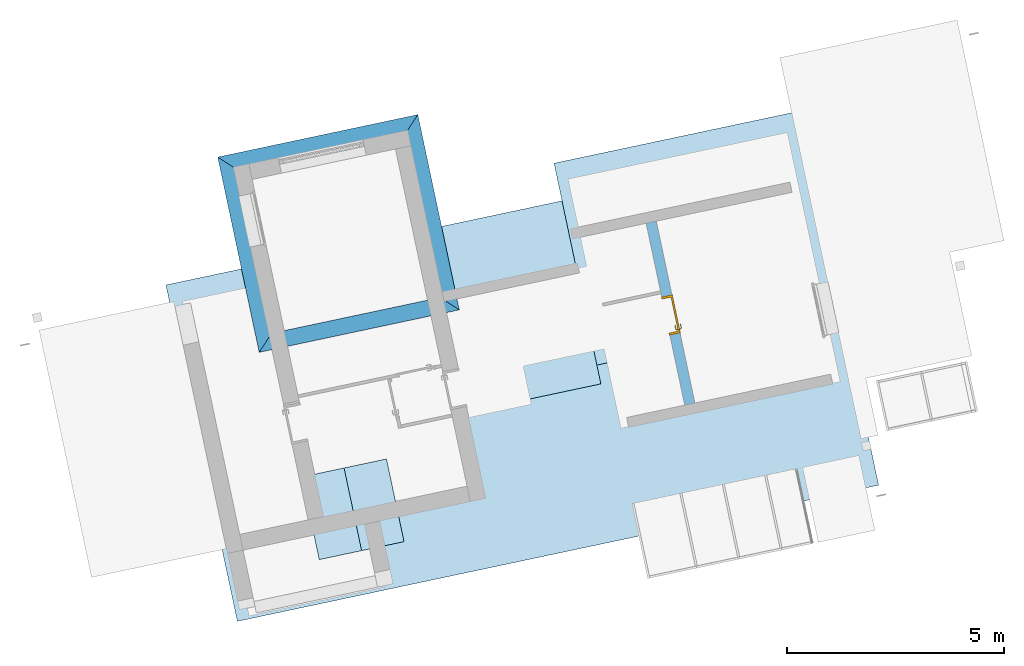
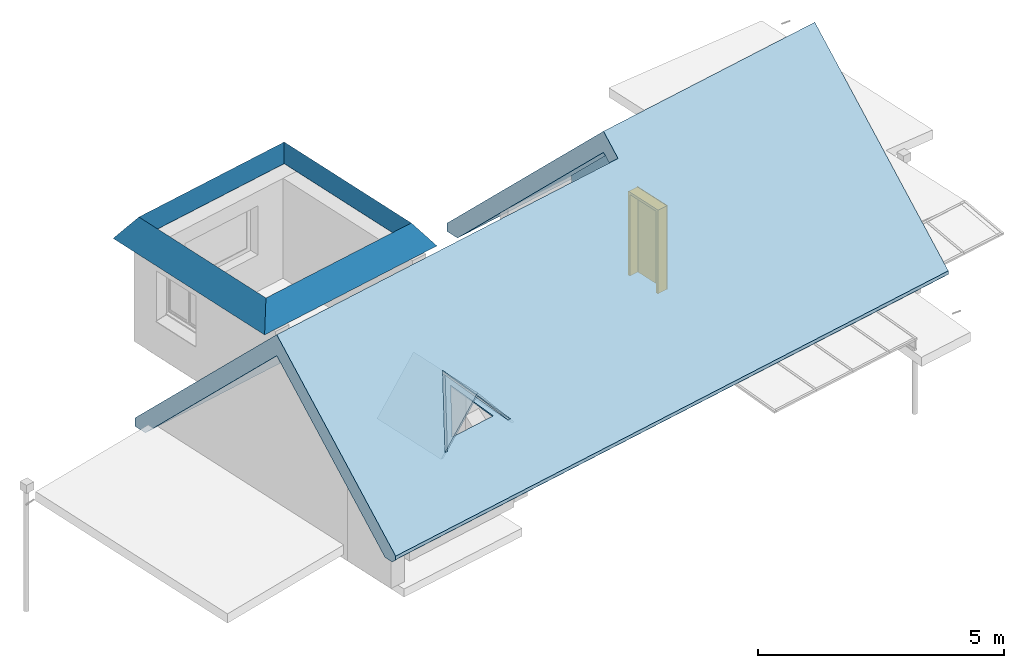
# One storey, part 8 of 10: 3 roofs, 1 door, 1 opening, plus 1 element that does not belong to this part.
"""IFC2X3 building model written with IfcOpenShell, lengths in centimetres."""

from ifc_helpers import new_model, entity, si_unit, converted_unit, derived_unit, direction, frame, frame_2d, origin, place, context, subcontext, project, spatial, polyline, rectangle, extrude, clip, bounded_halfspace, faceted_brep, source, transform, mapped, material, layer, layer_set, layer_usage, type_object, type_shapes, element, fill, save


model = new_model("IFC2X3")

# Units and contexts
model_context = context("Model", 3, precision=0.001, world=origin(), true_north=direction((6.12303176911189e-17, 1.0)))
body_context = subcontext(model_context, "Body", "Model", "MODEL_VIEW")
ifc_project = project(units=[si_unit("LENGTHUNIT", "METRE", prefix="CENTI"), si_unit("AREAUNIT", "SQUARE_METRE"), si_unit("VOLUMEUNIT", "CUBIC_METRE"), converted_unit("PLANEANGLEUNIT", "DEGREE", entity("IfcRatioMeasure", 0.0174532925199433), si_unit("PLANEANGLEUNIT", "RADIAN"), dimensions=[0, 0, 0, 0, 0, 0, 0]), si_unit("MASSUNIT", "GRAM", prefix="KILO"), derived_unit("MASSDENSITYUNIT", [(si_unit("MASSUNIT", "GRAM", prefix="KILO"), 1), (si_unit("LENGTHUNIT", "METRE"), -3)]), derived_unit("IONCONCENTRATIONUNIT", [(si_unit("MASSUNIT", "GRAM", prefix="KILO"), 1), (si_unit("LENGTHUNIT", "METRE"), -3)]), derived_unit("MOMENTOFINERTIAUNIT", [(si_unit("LENGTHUNIT", "METRE"), 4)]), si_unit("TIMEUNIT", "SECOND"), si_unit("FREQUENCYUNIT", "HERTZ"), si_unit("THERMODYNAMICTEMPERATUREUNIT", "DEGREE_CELSIUS"), derived_unit("THERMALTRANSMITTANCEUNIT", [(si_unit("MASSUNIT", "GRAM", prefix="KILO"), 1), (si_unit("THERMODYNAMICTEMPERATUREUNIT", "KELVIN"), -1), (si_unit("TIMEUNIT", "SECOND"), -3)]), derived_unit("THERMALCONDUCTANCEUNIT", [(si_unit("MASSUNIT", "GRAM", prefix="KILO"), 1), (si_unit("THERMODYNAMICTEMPERATUREUNIT", "KELVIN"), -1), (si_unit("TIMEUNIT", "SECOND"), -3), (si_unit("LENGTHUNIT", "METRE"), 1)]), derived_unit("VOLUMETRICFLOWRATEUNIT", [(si_unit("LENGTHUNIT", "METRE"), 3), (si_unit("TIMEUNIT", "SECOND"), -1)]), derived_unit("MASSFLOWRATEUNIT", [(si_unit("MASSUNIT", "GRAM", prefix="KILO"), 1), (si_unit("TIMEUNIT", "SECOND"), -1)]), derived_unit("ROTATIONALFREQUENCYUNIT", [(si_unit("TIMEUNIT", "SECOND"), -1)]), si_unit("ELECTRICCURRENTUNIT", "AMPERE"), si_unit("ELECTRICVOLTAGEUNIT", "VOLT"), si_unit("POWERUNIT", "WATT"), si_unit("FORCEUNIT", "NEWTON", prefix="KILO"), si_unit("ILLUMINANCEUNIT", "LUX"), si_unit("LUMINOUSFLUXUNIT", "LUMEN"), si_unit("LUMINOUSINTENSITYUNIT", "CANDELA"), derived_unit("USERDEFINED", [(si_unit("MASSUNIT", "GRAM", prefix="KILO"), -1), (si_unit("LENGTHUNIT", "METRE"), -2), (si_unit("TIMEUNIT", "SECOND"), 3), (si_unit("LUMINOUSFLUXUNIT", "LUMEN"), 1)]), derived_unit("USERDEFINED", [(si_unit("MASSUNIT", "GRAM", prefix="KILO"), 1), (si_unit("TIMEUNIT", "SECOND"), -3), (si_unit("LENGTHUNIT", "METRE"), 3), (si_unit("ELECTRICCURRENTUNIT", "AMPERE"), -2)]), derived_unit("SOUNDPOWERUNIT", [(si_unit("MASSUNIT", "GRAM", prefix="KILO"), 1), (si_unit("TIMEUNIT", "SECOND"), -3), (si_unit("LENGTHUNIT", "METRE"), 2)]), derived_unit("SOUNDPRESSUREUNIT", [(si_unit("MASSUNIT", "GRAM", prefix="KILO"), 1), (si_unit("LENGTHUNIT", "METRE"), -1), (si_unit("TIMEUNIT", "SECOND"), -2)]), derived_unit("LINEARVELOCITYUNIT", [(si_unit("LENGTHUNIT", "METRE"), 1), (si_unit("TIMEUNIT", "SECOND"), -1)]), si_unit("PRESSUREUNIT", "PASCAL"), derived_unit("USERDEFINED", [(si_unit("MASSUNIT", "GRAM", prefix="KILO"), 1), (si_unit("LENGTHUNIT", "METRE"), -2), (si_unit("TIMEUNIT", "SECOND"), -2)]), derived_unit("LINEARFORCEUNIT", [(si_unit("MASSUNIT", "GRAM", prefix="KILO"), 1), (si_unit("TIMEUNIT", "SECOND"), -2)]), derived_unit("PLANARFORCEUNIT", [(si_unit("MASSUNIT", "GRAM", prefix="KILO"), 1), (si_unit("LENGTHUNIT", "METRE"), -1), (si_unit("TIMEUNIT", "SECOND"), -2)]), derived_unit("SPECIFICHEATCAPACITYUNIT", [(si_unit("THERMODYNAMICTEMPERATUREUNIT", "KELVIN"), -1), (si_unit("LENGTHUNIT", "METRE"), 2), (si_unit("TIMEUNIT", "SECOND"), -2)]), derived_unit("HEATINGVALUEUNIT", [(si_unit("LENGTHUNIT", "METRE"), 2), (si_unit("TIMEUNIT", "SECOND"), -2)]), derived_unit("VAPORPERMEABILITYUNIT", [(si_unit("LENGTHUNIT", "METRE"), -1), (si_unit("TIMEUNIT", "SECOND"), 1)]), derived_unit("DYNAMICVISCOSITYUNIT", [(si_unit("MASSUNIT", "GRAM", prefix="KILO"), 1), (si_unit("TIMEUNIT", "SECOND"), -1), (si_unit("LENGTHUNIT", "METRE"), -1)]), derived_unit("THERMALEXPANSIONCOEFFICIENTUNIT", [(si_unit("THERMODYNAMICTEMPERATUREUNIT", "KELVIN"), -1)]), derived_unit("MODULUSOFELASTICITYUNIT", [(si_unit("MASSUNIT", "GRAM", prefix="KILO"), 1), (si_unit("LENGTHUNIT", "METRE"), -1), (si_unit("TIMEUNIT", "SECOND"), -2)]), derived_unit("ISOTHERMALMOISTURECAPACITYUNIT", [(si_unit("LENGTHUNIT", "METRE"), 3), (si_unit("MASSUNIT", "GRAM", prefix="KILO"), -1)]), derived_unit("MOISTUREDIFFUSIVITYUNIT", [(si_unit("TIMEUNIT", "SECOND"), -1), (si_unit("LENGTHUNIT", "METRE"), 2)])], contexts=[model_context])

# Site, building, storey
site_placement = place(None, frame((14083.8920177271, -6853.25409548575, 6900.0), z_axis=(0.0, 0.0, 1.0), x_axis=(0.978188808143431, 0.207717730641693, 0.0)))
site = spatial("IfcSite", under=ifc_project, at=site_placement, Name="Surface", CompositionType="ELEMENT")
building_placement = place(site_placement, origin())
building = spatial("IfcBuilding", under=site, at=building_placement, CompositionType="ELEMENT")
storey_placement = place(building_placement, frame((0.0, 0.0, 289.0)))
storey = spatial("IfcBuildingStorey", under=building, at=storey_placement, Name="_R+1", CompositionType="ELEMENT", Elevation=289.0)

# Wall, opening, door
ifc_material_1 = material(Name="__ ENDUIT_Blanc")
ifc_layer_1 = layer(ifc_material_1, 2.0)
ifc_material_2 = material(Name="Béton, précoulé")
ifc_layer_2 = layer(ifc_material_2, 20.0)
ifc_layer_3 = layer(ifc_material_1, 2.0)
ifc_layer_set_1 = layer_set([ifc_layer_1, ifc_layer_2, ifc_layer_3], Name="Mur de base:*BRIQUE 24 (20 + INT 2 + EXT 2) (enduit 2 faces)")
ifc_layer_usage = layer_usage(ifc_layer_set_1, "AXIS2", "NEGATIVE", 12.0)
wall_type = type_object("IfcWallType", Name="Mur de base:*BRIQUE 24 (20 + INT 2 + EXT 2) (enduit 2 faces)", PredefinedType="STANDARD", material=ifc_layer_set_1)
wall_placement = place(storey_placement, frame((-6621.9551432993, 15389.9391445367, 0.0), z_axis=(0.0, 0.0, 1.0), x_axis=(0.0, -1.0, 0.0)))
wall = element("IfcWallStandardCase", 1, at=wall_placement, inside=storey, type_object=wall_type, material=ifc_layer_usage, Name="Mur de base:*BRIQUE 24 (20 + INT 2 + EXT 2) (enduit 2 faces)", ObjectType="Mur de base:*BRIQUE 24 (20 + INT 2 + EXT 2) (enduit 2 faces)", context=body_context, shape_type="Clipping", body=[
    clip(clip(extrude(rectangle(XDim=23.9999999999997, YDim=428.766666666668, at=frame_2d((214.383333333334, -3.37507799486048e-14), x_axis=(0.0, 1.0))), origin(), (0.0, 0.0, 1.0), 451.979987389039), bounded_halfspace(frame((428.766666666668, -12.0, 316.5), z_axis=(0.707106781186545, 0.0, 0.70710678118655), x_axis=(0.0, 1.0, 0.0)), False, frame((428.766666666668, -12.0, 316.5)), polyline([(0.0, 0.0), (0.0, 24.0), (-135.479987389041, 24.0), (-135.479987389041, 0.0), (0.0, 0.0)]))), bounded_halfspace(frame((0.0, 12.0, 158.693308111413), z_axis=(-0.707106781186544, 0.0, 0.707106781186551), x_axis=(0.0, -1.0, 0.0)), False, frame((0.0, 12.0, 158.693308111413)), polyline([(0.0, 0.0), (0.0, -24.0), (293.286679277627, -24.0), (293.286679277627, 0.0), (0.0, 0.0)]))),
])
opening_placement = place(wall_placement, frame((173.633333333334, -12.0, 0.0)))
opening = element("IfcOpeningElement", 2, at=opening_placement, cuts=wall, Name="*Porte_alveolaire:Pp 83 x 204:1", ObjectType="Opening", context=body_context, shape_type="SweptSolid", body=[
    extrude(rectangle(XDim=207.5, YDim=89.9999999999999, at=frame_2d((103.75, 45.0), x_axis=(1.0, 0.0))), frame((0.0, 0.0, 0.0), z_axis=(0.0, 1.0, 0.0), x_axis=(0.0, 0.0, 1.0)), (0.0, 0.0, 1.0), 24.0),
])
ifc_material_3 = material(Name="<Unnamed>")
door_style = type_object("IfcDoorStyle", Name="*Porte_alveolaire:Pp 83 x 204", ConstructionType="NOTDEFINED", OperationType="NOTDEFINED", ParameterTakesPrecedence=False, Sizeable=False, material=ifc_material_3)
shared_shape = source(origin(), body_context, "Body", "Brep", [
    faceted_brep([(8.7974701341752, 3.69999999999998, 89.2219559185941), (9.20252986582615, 3.69999999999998, 89.221955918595), (9.60000000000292, 3.69999999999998, 89.3000000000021), (9.60000000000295, 3.69999999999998, 90.699999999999), (9.20252986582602, 3.69999999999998, 90.7780440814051), (8.79747013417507, 3.69999999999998, 90.7780440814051), (8.39999999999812, 3.69999999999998, 90.699999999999), (8.39999999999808, 3.69999999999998, 89.2999999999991), (9.60000000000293, 5.94852045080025, 89.3000000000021), (9.60000000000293, 5.94852045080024, 90.699999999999), (9.20252986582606, 6.11315797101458, 90.7780440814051), (10.5838906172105, 7.49451872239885, 90.7780440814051), (10.4161093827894, 7.89957845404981, 90.7780440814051), (8.7974701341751, 6.28093920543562, 90.7780440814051), (19.5684749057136, 6.84673156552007, 90.7780440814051), (19.8548953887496, 7.1331520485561, 90.7780440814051), (19.0884689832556, 7.8995784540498, 90.7780440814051), (18.9206877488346, 7.49451872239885, 90.7780440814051), (8.39999999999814, 6.44557672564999, 90.699999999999), (8.39999999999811, 6.44557672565, 89.2999999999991), (8.7974701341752, 6.28093920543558, 89.2219559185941), (10.4161093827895, 7.89957845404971, 89.2219559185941), (10.5838906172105, 7.49451872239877, 89.221955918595), (9.20252986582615, 6.11315797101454, 89.221955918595), (19.8548953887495, 7.133152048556, 89.221955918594), (19.5684749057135, 6.84673156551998, 89.221955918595), (18.9206877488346, 7.49451872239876, 89.221955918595), (19.0884689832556, 7.89957845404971, 89.221955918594), (10.7485281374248, 7.09704858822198, 89.3000000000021), (10.7485281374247, 7.09704858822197, 90.699999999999), (10.2514718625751, 8.29704858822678, 90.699999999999), (10.2514718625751, 8.2970485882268, 89.2999999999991), (14.7522879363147, 7.09704858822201, 89.300000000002), (18.7560502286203, 7.09704858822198, 89.300000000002), (18.7560502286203, 7.09704858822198, 90.699999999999), (14.7522891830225, 7.09704858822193, 90.699999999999), (14.7522891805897, 7.71249275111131, 90.7878116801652), (19.25310650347, 8.29704858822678, 90.699999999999), (15.2600577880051, 8.29704858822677, 90.699999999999), (19.25310650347, 8.2970485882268, 89.2999999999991), (14.2445205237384, 8.29704858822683, 89.2999999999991), (14.7522892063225, 7.71249274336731, 89.2121883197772), (19.287421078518, 6.56567773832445, 89.300000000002), (20.1359492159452, 7.41420587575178, 89.2999999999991), (20.1359492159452, 7.41420587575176, 90.699999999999), (19.287421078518, 6.56567773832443, 90.699999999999)], [[[0, 1, 2, 3, 4, 5, 6, 7]], [[3, 2, 8, 9]], [[9, 10, 4, 3]], [[10, 11, 12, 13, 5, 4]], [[14, 15, 16, 17]], [[13, 18, 6, 5]], [[7, 6, 18, 19]], [[19, 20, 0, 7]], [[20, 21, 22, 23, 1, 0]], [[24, 25, 26, 27]], [[23, 8, 2, 1]], [[9, 8, 28, 29]], [[29, 11, 10, 9]], [[12, 30, 18, 13]], [[19, 18, 30, 31]], [[31, 21, 20, 19]], [[22, 28, 8, 23]], [[28, 32, 33, 34, 35, 29]], [[11, 35, 36]], [[16, 37, 38]], [[30, 12, 38]], [[38, 12, 36]], [[36, 35, 17]], [[17, 16, 36]], [[35, 11, 29]], [[34, 17, 35]], [[11, 36, 12]], [[38, 36, 16]], [[31, 30, 38, 37, 39, 40]], [[40, 41, 21]], [[41, 40, 27]], [[21, 31, 40]], [[39, 27, 40]], [[41, 32, 22]], [[22, 21, 41]], [[26, 32, 41]], [[28, 22, 32]], [[32, 26, 33]], [[26, 41, 27]], [[42, 25, 24, 43, 44, 15, 14, 45]], [[34, 33, 42, 45]], [[45, 14, 17, 34]], [[15, 44, 37, 16]], [[39, 37, 44, 43]], [[43, 24, 27, 39]], [[25, 42, 33, 26]]]),
    faceted_brep([(8.79747013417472, -1.30000000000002, 90.7780440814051), (9.20252986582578, -1.30000000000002, 90.7780440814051), (9.60000000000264, -1.30000000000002, 90.6999999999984), (9.60000000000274, -1.30000000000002, 89.3000000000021), (9.20252986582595, -1.30000000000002, 89.221955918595), (8.79747013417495, -1.30000000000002, 89.221955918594), (8.39999999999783, -1.30000000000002, 89.2999999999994), (8.39999999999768, -1.30000000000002, 90.699999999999), (8.39999999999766, -4.06509507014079, 90.6999999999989), (8.79747013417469, -3.9004575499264, 90.7780440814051), (10.402358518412, -5.50534593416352, 90.7780440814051), (10.570139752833, -5.10028620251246, 90.7780440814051), (9.20252986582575, -3.73267631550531, 90.7780440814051), (19.852181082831, -4.73891952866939, 90.778044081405), (19.5657605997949, -4.45249904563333, 90.778044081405), (18.9179734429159, -5.10028620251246, 90.778044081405), (19.085754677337, -5.50534593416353, 90.778044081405), (9.60000000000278, -3.56803879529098, 90.699999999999), (9.60000000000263, -3.56803879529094, 89.3000000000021), (9.20252986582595, -3.73267631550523, 89.221955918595), (10.5701397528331, -5.10028620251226, 89.221955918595), (10.4023585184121, -5.50534593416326, 89.221955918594), (8.79747013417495, -3.90045754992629, 89.221955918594), (19.5657605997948, -4.45249904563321, 89.221955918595), (19.8521810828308, -4.73891952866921, 89.221955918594), (19.0857546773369, -5.50534593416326, 89.221955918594), (18.9179734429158, -5.10028620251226, 89.221955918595), (8.39999999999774, -4.06509507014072, 89.2999999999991), (10.2377209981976, -5.90281606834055, 90.6999999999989), (10.7347772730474, -4.70281606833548, 90.699999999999), (10.7347772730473, -4.70281606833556, 89.3000000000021), (10.2377209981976, -5.90281606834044, 89.2999999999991), (14.2307697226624, -5.90281606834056, 90.6999999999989), (14.7440566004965, -5.31828027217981, 90.7878115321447), (19.2503921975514, -5.90281606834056, 90.6999999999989), (14.7440565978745, -4.70281606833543, 90.699999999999), (18.7533359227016, -4.70281606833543, 90.6999999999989), (18.7533359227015, -4.70281606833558, 89.300000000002), (14.7440563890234, -4.70281606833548, 89.3000000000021), (14.7440565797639, -5.31828027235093, 89.2121884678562), (19.2503921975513, -5.90281606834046, 89.2999999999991), (15.2573436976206, -5.90281606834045, 89.2999999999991), (19.2847067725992, -4.17144521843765, 90.6999999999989), (20.1332349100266, -5.01997335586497, 90.6999999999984), (20.1332349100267, -5.019973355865, 89.2999999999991), (19.2847067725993, -4.17144521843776, 89.3000000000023)], [[[0, 1, 2, 3, 4, 5, 6, 7]], [[8, 9, 0, 7]], [[9, 10, 11, 12, 1, 0]], [[13, 14, 15, 16]], [[12, 17, 2, 1]], [[3, 2, 17, 18]], [[18, 19, 4, 3]], [[19, 20, 21, 22, 5, 4]], [[23, 24, 25, 26]], [[22, 27, 6, 5]], [[7, 6, 27, 8]], [[28, 10, 9, 8]], [[11, 29, 17, 12]], [[18, 17, 29, 30]], [[30, 20, 19, 18]], [[21, 31, 27, 22]], [[8, 27, 31, 28]], [[32, 33, 10]], [[33, 32, 16]], [[10, 28, 32]], [[34, 16, 32]], [[33, 35, 11]], [[11, 10, 33]], [[15, 35, 33]], [[29, 11, 35]], [[35, 15, 36]], [[15, 33, 16]], [[30, 29, 35, 36, 37, 38]], [[20, 38, 39]], [[25, 40, 41]], [[31, 21, 41]], [[41, 21, 39]], [[39, 38, 26]], [[26, 25, 39]], [[38, 20, 30]], [[37, 26, 38]], [[20, 39, 21]], [[41, 39, 25]], [[28, 31, 41, 40, 34, 32]], [[42, 14, 13, 43, 44, 24, 23, 45]], [[43, 13, 16, 34]], [[14, 42, 36, 15]], [[37, 36, 42, 45]], [[45, 23, 26, 37]], [[24, 44, 40, 25]], [[34, 40, 44, 43]]]),
    faceted_brep([(10.03527618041, 3.19999999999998, 76.6003983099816), (11.0, 3.19999999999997, 77.0), (11.0, 3.19999999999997, 98.0), (10.03527618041, 3.19999999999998, 98.3996016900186), (9.0, 3.19999999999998, 98.5358983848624), (7.96472381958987, 3.19999999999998, 98.3996016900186), (7.0, 3.19999999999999, 98.0), (7.0, 3.19999999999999, 77.0), (7.96472381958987, 3.19999999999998, 76.6003983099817), (9.0, 3.19999999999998, 76.4641016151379), (10.03527618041, 3.69999999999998, 98.3996016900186), (11.0, 3.69999999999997, 98.0), (11.0, 3.69999999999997, 77.0), (10.03527618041, 3.69999999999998, 76.6003983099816), (9.0, 3.69999999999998, 76.4641016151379), (7.96472381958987, 3.69999999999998, 76.6003983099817), (7.0, 3.69999999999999, 77.0), (7.0, 3.69999999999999, 98.0), (7.96472381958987, 3.69999999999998, 98.3996016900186), (9.0, 3.69999999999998, 98.5358983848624)], [[[0, 1, 2, 3, 4, 5, 6, 7, 8, 9]], [[10, 11, 12, 13, 14, 15, 16, 17, 18, 19]], [[11, 10, 3, 2]], [[3, 10, 19, 4]], [[19, 18, 5, 4]], [[18, 17, 6, 5]], [[7, 6, 17, 16]], [[16, 15, 8, 7]], [[8, 15, 14, 9]], [[14, 13, 0, 9]], [[13, 12, 1, 0]], [[2, 1, 12, 11]]]),
    faceted_brep([(10.03527618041, -1.30000000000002, 76.6003983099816), (11.0, -1.30000000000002, 77.0), (11.0, -1.30000000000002, 98.0), (10.03527618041, -1.30000000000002, 98.3996016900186), (9.0, -1.30000000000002, 98.5358983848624), (7.96472381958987, -1.30000000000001, 98.3996016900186), (7.0, -1.30000000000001, 98.0), (7.0, -1.30000000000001, 77.0), (7.96472381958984, -1.30000000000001, 76.6003983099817), (9.0, -1.30000000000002, 76.4641016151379), (10.03527618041, -0.800000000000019, 98.3996016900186), (11.0, -0.800000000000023, 98.0), (11.0, -0.800000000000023, 77.0), (10.03527618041, -0.800000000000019, 76.6003983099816), (9.0, -0.800000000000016, 76.4641016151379), (7.96472381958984, -0.800000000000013, 76.6003983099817), (7.0, -0.800000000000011, 77.0), (7.0, -0.800000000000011, 98.0), (7.96472381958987, -0.800000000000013, 98.3996016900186), (9.0, -0.800000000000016, 98.5358983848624)], [[[0, 1, 2, 3, 4, 5, 6, 7, 8, 9]], [[10, 11, 12, 13, 14, 15, 16, 17, 18, 19]], [[16, 15, 8, 7]], [[8, 15, 14, 9]], [[14, 13, 0, 9]], [[13, 12, 1, 0]], [[2, 1, 12, 11]], [[11, 10, 3, 2]], [[3, 10, 19, 4]], [[19, 18, 5, 4]], [[18, 17, 6, 5]], [[7, 6, 17, 16]]]),
    faceted_brep([(0.0, 0.0, 0.0), (0.0, 24.0, 0.0), (-1.0, 24.0, 0.0), (-1.0, 24.8000000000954, 0.0), (5.0, 24.8000000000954, 0.0), (5.0, 3.2, 0.0), (3.49999999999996, 3.2, 0.0), (3.49999999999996, -0.800000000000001, 0.0), (-1.0, -0.800000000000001, 0.0), (-1.0, 0.0, 0.0), (0.0, 0.0, 207.5), (0.0, 24.0, 207.5), (90.0, 24.0, 207.5), (90.0, 24.0, 0.0), (91.0, 24.0, 0.0), (91.0, 24.0, 208.5), (-1.0, 24.0, 208.5), (-1.0, 24.8000000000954, 208.5), (91.0, 24.8000000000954, 208.5), (91.0, 24.8000000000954, 0.0), (85.0, 24.8000000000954, 0.0), (85.0, 24.8000000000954, 202.500000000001), (5.0, 24.8000000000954, 202.500000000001), (5.0, 3.2, 202.500000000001), (85.0, 3.2, 202.500000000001), (85.0, 3.2, 0.0), (86.5, 3.2, 0.0), (86.5, 3.2, 204.0), (3.49999999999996, 3.2, 204.0), (3.49999999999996, -0.800000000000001, 204.0), (86.5, -0.800000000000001, 204.0), (86.5, -0.800000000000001, 0.0), (91.0, -0.800000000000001, 0.0), (91.0, -0.800000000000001, 208.5), (-1.0, -0.800000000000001, 208.5), (-1.0, 0.0, 208.5), (91.0, 0.0, 208.5), (91.0, 0.0, 0.0), (90.0, 0.0, 0.0), (90.0, 0.0, 207.5)], [[[0, 1, 2, 3, 4, 5, 6, 7, 8, 9]], [[1, 0, 10, 11]], [[2, 1, 11, 12, 13, 14, 15, 16]], [[3, 2, 16, 17]], [[4, 3, 17, 18, 19, 20, 21, 22]], [[5, 4, 22, 23]], [[6, 5, 23, 24, 25, 26, 27, 28]], [[7, 6, 28, 29]], [[8, 7, 29, 30, 31, 32, 33, 34]], [[9, 8, 34, 35]], [[0, 9, 35, 36, 37, 38, 39, 10]], [[12, 39, 38, 13]], [[38, 37, 32, 31, 26, 25, 20, 19, 14, 13]], [[18, 15, 14, 19]], [[24, 21, 20, 25]], [[30, 27, 26, 31]], [[36, 33, 32, 37]], [[11, 10, 39, 12]], [[17, 16, 15, 18]], [[23, 22, 21, 24]], [[29, 28, 27, 30]], [[35, 34, 33, 36]]]),
    faceted_brep([(3.49999999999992, -0.799999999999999, 204.0), (3.49999999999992, -0.799999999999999, 0.0), (86.5, -0.799999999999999, 0.0), (86.5, -0.799999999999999, 204.0), (3.49999999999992, 3.2, 204.0), (86.5, 3.2, 204.0), (86.5, 3.2, 0.0), (3.49999999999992, 3.2, 0.0)], [[[0, 1, 2, 3]], [[4, 5, 6, 7]], [[1, 0, 4, 7]], [[2, 1, 7, 6]], [[3, 2, 6, 5]], [[0, 3, 5, 4]]]),
])
type_shapes(door_style, [shared_shape])
door_placement = place(opening_placement, frame((90.0, 24.0, 0.0), z_axis=(0.0, 0.0, 1.0), x_axis=(-1.0, 0.0, 0.0)))
door = element("IfcDoor", 3, at=door_placement, inside=storey, type_object=door_style, material=ifc_material_3, Name="*Porte_alveolaire:Pp 83 x 204", ObjectType="*Porte_alveolaire:Pp 83 x 204", OverallHeight=207.5, OverallWidth=90.0000000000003, context=body_context, shape_type="MappedRepresentation", body=[
    mapped(shared_shape, transform((0.0, 0.0, 0.0), scale=1.0)),
])
fill(opening, door)

# Roofs
ifc_material_4 = material(Name="__ TOIT_ardoises______________________TEST")
ifc_layer_4 = layer(ifc_material_4, 5.0)
ifc_layer_set_2 = layer_set([ifc_layer_4], Name="Toit de base:Ardoise 5")
roof_1_placement = place(storey_placement, frame((-7532.64448995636, 14787.6724778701, 185.778619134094)))
element("IfcRoof", 4, at=roof_1_placement, inside=storey, material=ifc_layer_set_2, Name="Toit de base:Ardoise 5", ObjectType="Toit de base:Ardoise 5", ShapeType="NOTDEFINED", context=body_context, shape_type="Brep", body=[
    faceted_brep([(100.0, 195.0, 111.396740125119), (193.472963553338, 195.0, 0.0), (193.472963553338, 42.778619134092, 0.0), (193.472963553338, 39.778619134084, 0.0), (193.472963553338, 0.0, 0.0), (185.46184218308, 0.0, 9.5472826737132), (182.944543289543, 0.0, 12.5472826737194), (100.0, 0.0, 111.396740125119), (100.0, 98.8494574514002, 111.396740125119), (100.0, 101.849457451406, 111.396740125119), (100.0, 151.175359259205, 111.396740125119), (100.0, 154.175359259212, 111.396740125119), (6.52703644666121, 0.0, 0.0), (6.52703644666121, 39.778619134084, 0.0), (6.52703644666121, 42.7786191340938, 0.0), (6.52703644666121, 195.0, 0.0), (17.0554567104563, 0.0, 12.5472826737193), (14.5381578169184, 0.0, 9.54728267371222), (200.0, 195.0, 0.0), (100.0, 195.0, 119.175359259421), (100.0, 161.953978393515, 119.175359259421), (100.0, 158.953978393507, 119.175359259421), (100.0, 109.628076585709, 119.175359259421), (100.0, 106.628076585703, 119.175359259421), (100.0, 0.0, 119.175359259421), (189.471579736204, 0.0, 12.5472826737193), (191.988878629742, 0.0, 9.5472826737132), (200.0, 0.0, 0.0), (200.0, 39.778619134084, 0.0), (200.0, 42.778619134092, 0.0), (0.0, 195.0, 0.0), (0.0, 42.7786191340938, 0.0), (0.0, 39.778619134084, 0.0), (0.0, 0.0, 0.0), (8.01112137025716, 0.0, 9.54728267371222), (10.5284202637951, 0.0, 12.5472826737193)], [[[0, 1, 2, 3, 4, 5, 6, 7, 8, 9, 10, 11]], [[12, 13, 14, 15, 0, 11, 10, 9, 8, 7, 16, 17]], [[18, 19, 20, 21, 22, 23, 24, 25, 26, 27, 28, 29]], [[30, 31, 32, 33, 34, 35, 24, 23, 22, 21, 20, 19]], [[33, 32, 31, 30, 15, 14, 13, 12]], [[18, 29, 28, 27, 4, 3, 2, 1]], [[30, 19, 18, 1, 0, 15]], [[27, 26, 25, 24, 35, 34, 33, 12, 17, 16, 7, 6, 5, 4]]]),
])
ifc_layer_5 = layer(ifc_material_4, 30.0)
ifc_layer_set_3 = layer_set([ifc_layer_5], Name="Toit de base:Toiture ardoise (ep30cm)")
roof_2_placement = place(storey_placement, frame((-7568.79714756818, 15284.1673447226, 253.648749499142)))
element("IfcRoof", 5, at=roof_2_placement, inside=storey, material=ifc_layer_set_3, Name="Toit de base:Toiture ardoise (ep30cm)", ObjectType="Toit de base:Toiture ardoise (ep30cm)", ShapeType="NOTDEFINED", context=body_context, shape_type="Brep", body=[
    faceted_brep([(435.655465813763, 424.313461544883, 0.0), (435.655465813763, 36.1865384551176, 0.0), (434.744035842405, 37.0979684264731, 1.35125050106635), (434.744035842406, 423.402031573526, 1.3512505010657), (36.1865384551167, 424.313461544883, 0.0), (37.0979684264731, 423.402031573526, 1.3512505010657), (36.1865384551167, 36.1865384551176, 0.0), (37.0979684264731, 37.0979684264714, 1.35125050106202), (471.84200426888, 0.0, 0.0), (471.84200426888, 460.500000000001, 0.0), (434.744035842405, 423.40203157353, 55.0), (434.744035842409, 37.0979684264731, 55.0), (0.0, 460.500000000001, 0.0), (37.0979684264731, 423.402031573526, 55.0), (0.0, 0.0, 0.0), (37.0979684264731, 37.0979684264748, 55.0)], [[[0, 1, 2, 3]], [[4, 0, 3, 5]], [[1, 6, 7, 2]], [[6, 4, 5, 7]], [[8, 9, 10, 11]], [[9, 12, 13, 10]], [[14, 8, 11, 15]], [[12, 14, 15, 13]], [[1, 0, 4, 6], [12, 9, 8, 14]], [[15, 7, 5, 13]], [[7, 15, 11, 2]], [[10, 3, 2, 11]], [[13, 5, 3, 10]]], outer=[[True], [True], [True], [True], [True], [True], [True], [True], [False, True], [True], [True], [True], [True]]),
])
ifc_layer_6 = layer(ifc_material_4, 4.0)
ifc_material_5 = material(Name="Bois d'oeuvre, C16")
ifc_layer_7 = layer(ifc_material_5, 10.0)
ifc_material_6 = material(Name="Laine minérale")
ifc_layer_8 = layer(ifc_material_6, 22.0)
ifc_material_7 = material(Name="Panneau de revêtement en gypse")
ifc_layer_9 = layer(ifc_material_7, 1.0)
ifc_layer_set_4 = layer_set([ifc_layer_6, ifc_layer_7, ifc_layer_8, ifc_layer_9], Name="Toit de base:Toit ardoise ep 37")
roof_3_placement = place(storey_placement, frame((-7746.9551432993, 14687.6724778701, 8.32590180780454)))
element("IfcRoof", 6, at=roof_3_placement, inside=storey, material=ifc_layer_set_4, Name="Toit de base:Toit ardoise ep 37", ObjectType="Toit de base:Toit ardoise ep 37", ShapeType="NOTDEFINED", context=body_context, shape_type="Brep", body=[
    faceted_brep([(1512.14192420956, 849.634072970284, 0.0), (1512.14192420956, 405.979987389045, 443.654085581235), (934.0, 405.979987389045, 443.654085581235), (934.0, 760.94076485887, 88.6933081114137), (934.0, 849.634072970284, 0.0), (1512.14192420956, 881.959974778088, 20.0), (934.0, 881.959974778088, 20.0), (934.0, 793.266666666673, 108.693308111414), (934.0, 405.979987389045, 495.979987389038), (1512.14192420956, 405.979987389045, 495.979987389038), (1512.14192420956, 881.959974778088, 0.0), (934.0, 881.959974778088, 0.0), (1512.14192420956, 0.0, 90.0), (1512.14192420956, 0.0, 81.5554874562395), (1512.14192420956, 11.5554874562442, 70.0), (1512.14192420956, 32.3259018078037, 70.0), (934.0, 361.633333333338, 399.307431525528), (934.0, 760.94076485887, 0.0), (934.0, 793.266666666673, 0.0), (934.0, 793.266666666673, 20.0), (934.0, 387.796284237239, 425.470382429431), (0.0, 760.94076485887, 0.0), (0.0, 361.633333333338, 399.307431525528), (0.0, 793.266666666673, 20.0), (0.0, 361.633333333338, 451.633333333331), (934.0, 361.633333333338, 451.633333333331), (0.0, 793.266666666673, 0.0), (3.0, 772.508441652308, 0.0), (3.0, 761.619284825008, 0.0), (905.856354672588, 761.619284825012, 0.0), (905.856354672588, 772.508441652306, 0.0), (0.0, 32.3259018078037, 70.0), (0.0, 10.5471144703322, 70.0), (0.0, 0.0, 80.547114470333), (0.0, 0.0, 90.0), (1507.52685783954, 32.3259018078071, 70.0), (1507.52685783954, 77.0, 114.674098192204), (3.0, 77.0, 114.674098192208), (3.0, 32.3259018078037, 70.0), (314.310653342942, 251.175359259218, 288.849457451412), (407.78361689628, 139.778619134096, 177.452717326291), (414.310653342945, 139.778619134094, 177.452717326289), (314.310653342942, 258.953978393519, 296.628076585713), (214.310653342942, 139.778619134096, 177.452717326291), (220.8376897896, 139.778619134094, 177.452717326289), (227.364726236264, 130.557238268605, 168.2313364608), (401.256580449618, 130.557238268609, 168.231336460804), (314.310653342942, 234.175359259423, 271.849457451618), (397.255196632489, 100.0, 190.0), (314.310653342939, 198.849457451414, 288.849457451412), (231.366110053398, 100.0, 190.0), (224.839073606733, 100.0, 190.0), (314.310653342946, 206.628076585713, 296.628076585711), (403.782233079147, 100.0, 190.0), (370.404008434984, 115.0, 205.0), (258.217298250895, 115.0, 205.0), (314.310653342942, 181.849457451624, 271.849457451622), (3.0, 0.0, 80.5471144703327), (3.0, 0.0, 81.426406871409), (1507.14192420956, 0.0, 81.426406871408), (1507.14192420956, 0.0, 81.5554874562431), (1507.52685783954, 11.5554874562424, 70.0), (407.78361689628, 100.0, 177.45271732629), (220.837689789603, 100.0, 177.45271732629), (414.310653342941, 100.0, 177.45271732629), (214.310653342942, 100.0, 177.45271732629), (3.0, 77.0, 143.241774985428), (3.0, 7.59231594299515, 73.8340909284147), (3.0, 10.5471144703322, 70.0), (1507.52685783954, 7.65685623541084, 73.8986312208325), (1507.52685783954, 77.0, 143.241774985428), (1507.14192420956, 7.59231594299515, 73.8340909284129), (1507.14192420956, 7.65685623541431, 73.8986312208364), (401.256580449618, 115.0, 168.2313364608), (227.364726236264, 115.0, 168.2313364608), (3.0, 761.619284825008, 10.8891568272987), (905.856354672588, 761.61928482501, 10.8891568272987)], [[[0, 1, 2, 3, 4]], [[5, 6, 7, 8, 9]], [[6, 5, 10, 11]], [[0, 4, 11, 10]], [[1, 0, 10, 5, 9, 12, 13, 14, 15]], [[16, 17, 18, 19, 20]], [[21, 17, 16, 22]], [[19, 23, 24, 25, 20]], [[23, 19, 18, 26]], [[17, 21, 26, 18], [27, 28, 29, 30]], [[4, 3, 2, 20, 25, 8, 7, 6, 11]], [[21, 22, 31, 32, 33, 34, 24, 23, 26]], [[2, 1, 15, 35, 36, 37, 38, 31, 22, 16, 20], [39, 40, 41, 42, 43, 44], [45, 46, 47]], [[34, 12, 9, 8, 25, 24], [48, 49, 50, 51, 52, 53], [54, 55, 56]], [[12, 34, 33, 57, 58, 59, 60, 13]], [[35, 15, 14, 61]], [[48, 62, 40, 39, 49]], [[63, 50, 49, 39, 44]], [[41, 64, 53, 52, 42]], [[42, 52, 51, 65, 43]], [[65, 63, 44, 43]], [[62, 64, 41, 40]], [[63, 65, 51, 50]], [[66, 67, 58, 57, 68, 38, 37]], [[69, 70, 36, 35, 61]], [[67, 71, 59, 58]], [[67, 66, 70, 69, 72, 71]], [[70, 66, 37, 36]], [[73, 74, 55, 54]], [[74, 73, 46, 45]], [[55, 74, 45, 47, 56]], [[73, 54, 56, 47, 46]], [[71, 72, 60, 59]], [[72, 69, 61, 14, 13, 60]], [[68, 57, 33, 32]], [[27, 75, 28]], [[29, 76, 30]], [[76, 75, 27, 30]], [[75, 76, 29, 28]], [[64, 62, 48, 53]], [[32, 31, 38, 68]]]),
])

save(model, "model.ifc")
